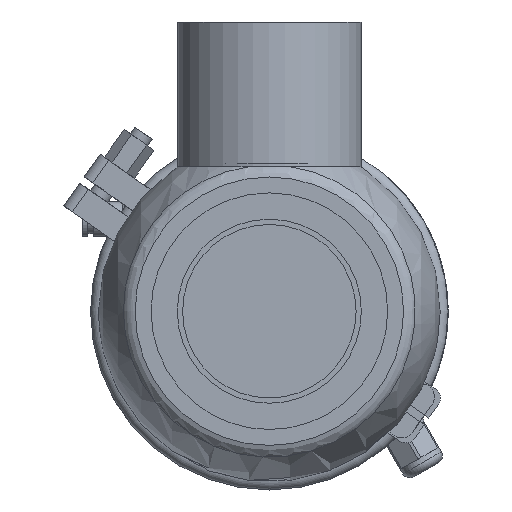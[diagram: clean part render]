
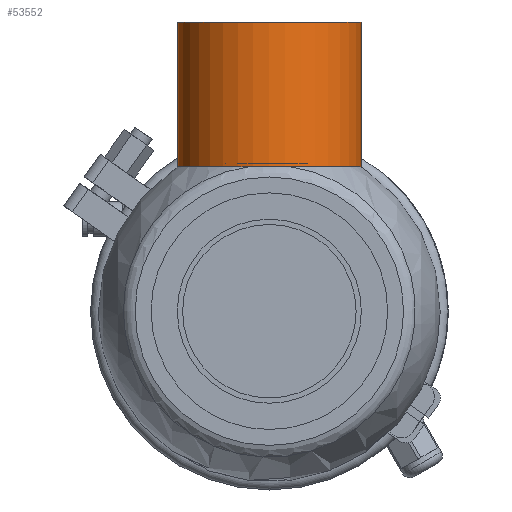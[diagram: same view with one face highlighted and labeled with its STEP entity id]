
A CAD part, front view. The second image highlights one B-rep face of the part: STEP entity #53552.
In plain terms, the highlighted cylindrical face has radius 35 mm (diameter 70 mm), a full revolution.
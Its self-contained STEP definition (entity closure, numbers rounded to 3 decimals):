
#663 = CARTESIAN_POINT ( 'NONE',  ( 55., 0., 35. ) ) ;
#2108 = DIRECTION ( 'NONE',  ( -1., 0., 0. ) ) ;
#2397 = EDGE_LOOP ( 'NONE', ( #53669 ) ) ;
#3286 = ORIENTED_EDGE ( 'NONE', *, *, #16710, .T. ) ;
#7118 = FACE_OUTER_BOUND ( 'NONE', #2397, .T. ) ;
#7162 = AXIS2_PLACEMENT_3D ( 'NONE', #23523, #14243, #33156 ) ;
#7430 = CARTESIAN_POINT ( 'NONE',  ( 0., 0., 0. ) ) ;
#11170 = FACE_OUTER_BOUND ( 'NONE', #18845, .T. ) ;
#12091 = CIRCLE ( 'NONE', #46588, 35. ) ;
#14243 = DIRECTION ( 'NONE',  ( -1., 0., 0. ) ) ;
#16710 = EDGE_CURVE ( 'NONE', #34425, #34425, #12091, .T. ) ;
#18845 = EDGE_LOOP ( 'NONE', ( #3286 ) ) ;
#19337 = AXIS2_PLACEMENT_3D ( 'NONE', #7430, #30959, #41178 ) ;
#20889 = DIRECTION ( 'NONE',  ( 0., 0., 1. ) ) ;
#23512 = EDGE_CURVE ( 'NONE', #56421, #56421, #57388, .T. ) ;
#23523 = CARTESIAN_POINT ( 'NONE',  ( 55., 0., 0. ) ) ;
#29400 = CARTESIAN_POINT ( 'NONE',  ( 110., 0., 0. ) ) ;
#30959 = DIRECTION ( 'NONE',  ( -1., 0., 0. ) ) ;
#33156 = DIRECTION ( 'NONE',  ( 0., 0., 1. ) ) ;
#34425 = VERTEX_POINT ( 'NONE', #58008 ) ;
#35644 = CYLINDRICAL_SURFACE ( 'NONE', #19337, 35. ) ;
#41178 = DIRECTION ( 'NONE',  ( 0., 0., 1. ) ) ;
#46588 = AXIS2_PLACEMENT_3D ( 'NONE', #29400, #2108, #20889 ) ;
#53552 = ADVANCED_FACE ( 'NONE', ( #11170, #7118 ), #35644, .T. ) ;
#53669 = ORIENTED_EDGE ( 'NONE', *, *, #23512, .F. ) ;
#56421 = VERTEX_POINT ( 'NONE', #663 ) ;
#57388 = CIRCLE ( 'NONE', #7162, 35. ) ;
#58008 = CARTESIAN_POINT ( 'NONE',  ( 110., 0., 35. ) ) ;
